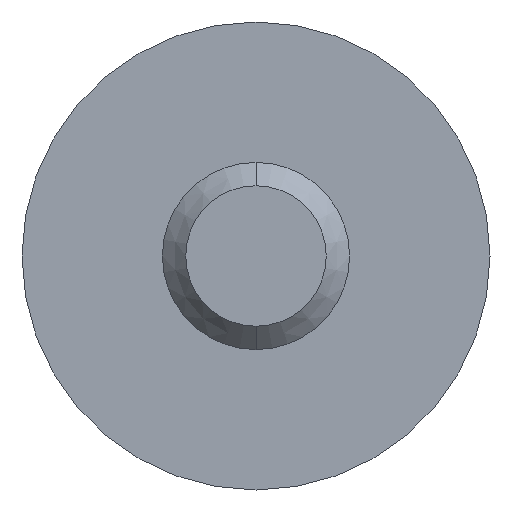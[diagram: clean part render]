
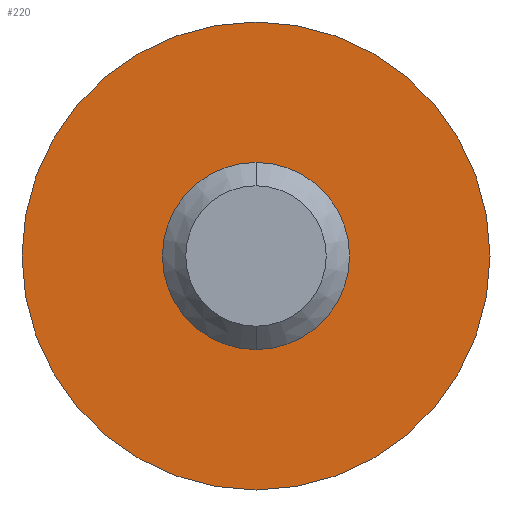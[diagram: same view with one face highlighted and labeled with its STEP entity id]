
A CAD part, front view. The second image highlights one B-rep face of the part: STEP entity #220.
In plain terms, the highlighted planar face has unit normal (0, -1, 0).
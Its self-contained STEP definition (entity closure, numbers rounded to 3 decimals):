
#1=CARTESIAN_POINT('',(0.,1.,0.));
#2=DIRECTION('',(0.,1.,0.));
#3=DIRECTION('',(0.,0.,-1.));
#4=AXIS2_PLACEMENT_3D('',#1,#2,#3);
#6=CARTESIAN_POINT('',(0.,1.,0.));
#7=DIRECTION('',(0.,-1.,0.));
#8=DIRECTION('',(0.,0.,-1.));
#9=AXIS2_PLACEMENT_3D('',#6,#7,#8);
#11=CARTESIAN_POINT('',(0.,1.,0.));
#12=DIRECTION('',(0.,-1.,0.));
#13=DIRECTION('',(0.,0.,-1.));
#14=AXIS2_PLACEMENT_3D('',#11,#12,#13);
#24=CARTESIAN_POINT('',(0.,1.,0.));
#25=DIRECTION('',(0.,1.,0.));
#26=DIRECTION('',(0.,0.,-1.));
#27=AXIS2_PLACEMENT_3D('',#24,#25,#26);
#161=CARTESIAN_POINT('',(0.,1.,-1.));
#163=VERTEX_POINT('',#161);
#181=CARTESIAN_POINT('',(0.,1.,-0.4));
#182=VERTEX_POINT('',#181);
#183=CARTESIAN_POINT('',(0.,1.,1.));
#185=VERTEX_POINT('',#183);
#201=CARTESIAN_POINT('',(0.,1.,0.4));
#202=VERTEX_POINT('',#201);
#203=CARTESIAN_POINT('',(0.,1.,0.));
#204=DIRECTION('',(0.,-1.,0.));
#205=DIRECTION('',(0.,0.,1.));
#206=AXIS2_PLACEMENT_3D('',#203,#204,#205);
#207=PLANE('',#206);
#209=ORIENTED_EDGE('',*,*,#208,.F.);
#211=ORIENTED_EDGE('',*,*,#210,.T.);
#212=EDGE_LOOP('',(#209,#211));
#213=FACE_OUTER_BOUND('',#212,.F.);
#215=ORIENTED_EDGE('',*,*,#214,.F.);
#217=ORIENTED_EDGE('',*,*,#216,.T.);
#218=EDGE_LOOP('',(#215,#217));
#219=FACE_BOUND('',#218,.F.);
#220=ADVANCED_FACE('',(#213,#219),#207,.T.);
#5=CIRCLE('',#4,0.4);
#10=CIRCLE('',#9,0.4);
#15=CIRCLE('',#14,1.);
#28=CIRCLE('',#27,1.);
#208=EDGE_CURVE('',#163,#185,#15,.T.);
#210=EDGE_CURVE('',#163,#185,#28,.T.);
#214=EDGE_CURVE('',#182,#202,#5,.T.);
#216=EDGE_CURVE('',#182,#202,#10,.T.);
